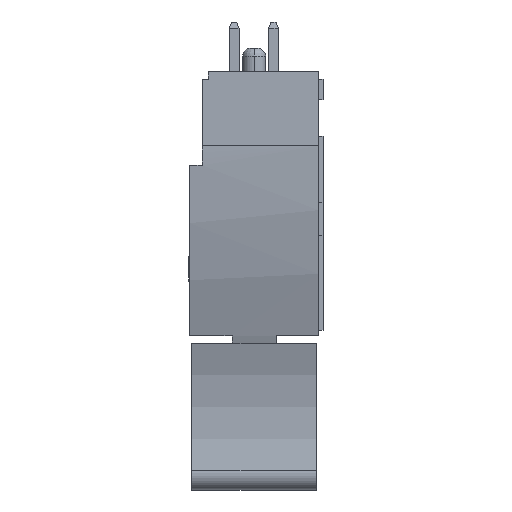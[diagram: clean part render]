
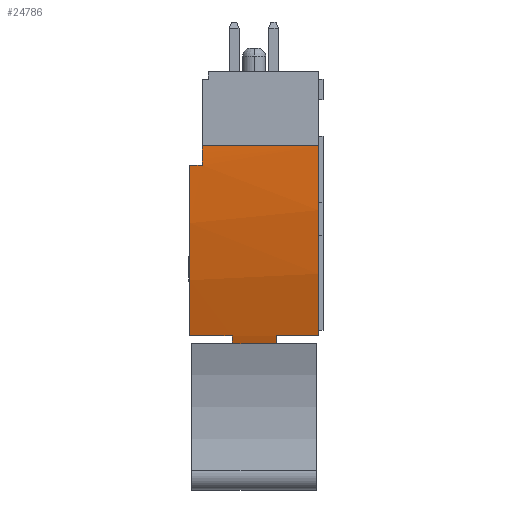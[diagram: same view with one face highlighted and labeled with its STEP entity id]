
A CAD part, left-side view. The second image highlights one B-rep face of the part: STEP entity #24786.
In plain terms, the highlighted cylindrical face has radius 36.6 mm (diameter 73.2 mm), a partial arc.
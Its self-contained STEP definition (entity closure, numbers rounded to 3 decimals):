
#16360=CARTESIAN_POINT('Vertex',(-24.032,2.73,9.95)) ;
#16363=CARTESIAN_POINT('Axis2P3D Location',(10.45,2.73,22.22)) ;
#16367=CARTESIAN_POINT('Vertex',(-23.85,2.73,9.45)) ;
#16394=CARTESIAN_POINT('Line Origine',(-23.85,1.43,9.45)) ;
#16398=CARTESIAN_POINT('Vertex',(-23.85,0.13,9.45)) ;
#16423=CARTESIAN_POINT('Axis2P3D Location',(10.45,0.13,22.22)) ;
#16427=CARTESIAN_POINT('Vertex',(-23.843,0.13,9.432)) ;
#16454=CARTESIAN_POINT('Line Origine',(-23.843,3.49,9.432)) ;
#16458=CARTESIAN_POINT('Vertex',(-23.843,8.17,9.432)) ;
#16485=CARTESIAN_POINT('Axis2P3D Location',(10.45,8.17,22.22)) ;
#16489=CARTESIAN_POINT('Vertex',(-23.85,8.17,9.45)) ;
#16518=CARTESIAN_POINT('Line Origine',(-23.85,6.87,9.45)) ;
#16522=CARTESIAN_POINT('Vertex',(-23.85,5.57,9.45)) ;
#16549=CARTESIAN_POINT('Axis2P3D Location',(10.45,5.57,22.22)) ;
#16553=CARTESIAN_POINT('Vertex',(-24.032,5.57,9.95)) ;
#16580=CARTESIAN_POINT('Line Origine',(-24.032,6.935,9.95)) ;
#16584=CARTESIAN_POINT('Vertex',(-24.032,8.3,9.95)) ;
#16640=CARTESIAN_POINT('Axis2P3D Location',(10.45,8.3,22.22)) ;
#16644=CARTESIAN_POINT('Vertex',(-26.128,8.3,20.95)) ;
#24372=CARTESIAN_POINT('Vertex',(-24.032,0.,9.95)) ;
#24375=CARTESIAN_POINT('Line Origine',(-24.032,1.365,9.95)) ;
#24739=CARTESIAN_POINT('Axis2P3D Location',(10.45,3.49,22.22)) ;
#24744=CARTESIAN_POINT('Axis2P3D Location',(10.45,7.5,22.22)) ;
#24748=CARTESIAN_POINT('Vertex',(-26.128,7.5,20.95)) ;
#24750=CARTESIAN_POINT('Vertex',(-26.15,7.5,22.22)) ;
#24753=CARTESIAN_POINT('Line Origine',(-26.128,3.49,20.95)) ;
#24758=CARTESIAN_POINT('Axis2P3D Location',(10.45,0.,22.22)) ;
#24762=CARTESIAN_POINT('Vertex',(-26.15,0.,22.22)) ;
#24765=CARTESIAN_POINT('Line Origine',(-26.15,3.49,22.22)) ;
#16364=DIRECTION('Axis2P3D Direction',(0.,-1.,0.)) ;
#16395=DIRECTION('Vector Direction',(0.,-1.,0.)) ;
#16424=DIRECTION('Axis2P3D Direction',(0.,-1.,0.)) ;
#16455=DIRECTION('Vector Direction',(0.,1.,0.)) ;
#16486=DIRECTION('Axis2P3D Direction',(0.,1.,0.)) ;
#16519=DIRECTION('Vector Direction',(0.,-1.,0.)) ;
#16550=DIRECTION('Axis2P3D Direction',(0.,1.,0.)) ;
#16581=DIRECTION('Vector Direction',(0.,-1.,0.)) ;
#16641=DIRECTION('Axis2P3D Direction',(0.,1.,0.)) ;
#24376=DIRECTION('Vector Direction',(0.,1.,0.)) ;
#24740=DIRECTION('Axis2P3D Direction',(0.,1.,0.)) ;
#24741=DIRECTION('Axis2P3D XDirection',(-0.937,0.,-0.349)) ;
#24745=DIRECTION('Axis2P3D Direction',(0.,1.,0.)) ;
#24754=DIRECTION('Vector Direction',(0.,1.,0.)) ;
#24759=DIRECTION('Axis2P3D Direction',(0.,1.,0.)) ;
#24766=DIRECTION('Vector Direction',(0.,1.,0.)) ;
#16365=AXIS2_PLACEMENT_3D('Circle Axis2P3D',#16363,#16364,$) ;
#16425=AXIS2_PLACEMENT_3D('Circle Axis2P3D',#16423,#16424,$) ;
#16487=AXIS2_PLACEMENT_3D('Circle Axis2P3D',#16485,#16486,$) ;
#16551=AXIS2_PLACEMENT_3D('Circle Axis2P3D',#16549,#16550,$) ;
#16642=AXIS2_PLACEMENT_3D('Circle Axis2P3D',#16640,#16641,$) ;
#24742=AXIS2_PLACEMENT_3D('Cylinder Axis2P3D',#24739,#24740,#24741) ;
#24746=AXIS2_PLACEMENT_3D('Circle Axis2P3D',#24744,#24745,$) ;
#24760=AXIS2_PLACEMENT_3D('Circle Axis2P3D',#24758,#24759,$) ;
#24771=ORIENTED_EDGE('',*,*,#24752,.F.) ;
#24772=ORIENTED_EDGE('',*,*,#24757,.F.) ;
#24773=ORIENTED_EDGE('',*,*,#16646,.T.) ;
#24774=ORIENTED_EDGE('',*,*,#16586,.T.) ;
#24775=ORIENTED_EDGE('',*,*,#16555,.F.) ;
#24776=ORIENTED_EDGE('',*,*,#16524,.F.) ;
#24777=ORIENTED_EDGE('',*,*,#16491,.F.) ;
#24778=ORIENTED_EDGE('',*,*,#16460,.T.) ;
#24779=ORIENTED_EDGE('',*,*,#16429,.F.) ;
#24780=ORIENTED_EDGE('',*,*,#16400,.F.) ;
#24781=ORIENTED_EDGE('',*,*,#16369,.F.) ;
#24782=ORIENTED_EDGE('',*,*,#24379,.F.) ;
#24783=ORIENTED_EDGE('',*,*,#24764,.F.) ;
#24784=ORIENTED_EDGE('',*,*,#24769,.F.) ;
#16396=VECTOR('Line Direction',#16395,1.) ;
#16456=VECTOR('Line Direction',#16455,1.) ;
#16520=VECTOR('Line Direction',#16519,1.) ;
#16582=VECTOR('Line Direction',#16581,1.) ;
#24377=VECTOR('Line Direction',#24376,1.) ;
#24755=VECTOR('Line Direction',#24754,1.) ;
#24767=VECTOR('Line Direction',#24766,1.) ;
#24786=ADVANCED_FACE('\X2\96F64EF651E04F554F53\X0\',(#24785),#24743,.T.) ;
#16366=CIRCLE('generated circle',#16365,36.6) ;
#16426=CIRCLE('generated circle',#16425,36.6) ;
#16488=CIRCLE('generated circle',#16487,36.6) ;
#16552=CIRCLE('generated circle',#16551,36.6) ;
#16643=CIRCLE('generated circle',#16642,36.6) ;
#24747=CIRCLE('generated circle',#24746,36.6) ;
#24761=CIRCLE('generated circle',#24760,36.6) ;
#24743=CYLINDRICAL_SURFACE('generated cylinder',#24742,36.6) ;
#16369=EDGE_CURVE('',#16361,#16368,#16366,.T.) ;
#16400=EDGE_CURVE('',#16368,#16399,#16397,.T.) ;
#16429=EDGE_CURVE('',#16399,#16428,#16426,.T.) ;
#16460=EDGE_CURVE('',#16459,#16428,#16457,.F.) ;
#16491=EDGE_CURVE('',#16459,#16490,#16488,.T.) ;
#16524=EDGE_CURVE('',#16490,#16523,#16521,.T.) ;
#16555=EDGE_CURVE('',#16523,#16554,#16552,.T.) ;
#16586=EDGE_CURVE('',#16585,#16554,#16583,.T.) ;
#16646=EDGE_CURVE('',#16645,#16585,#16643,.F.) ;
#24379=EDGE_CURVE('',#24373,#16361,#24378,.T.) ;
#24752=EDGE_CURVE('',#24749,#24751,#24747,.T.) ;
#24757=EDGE_CURVE('',#16645,#24749,#24756,.F.) ;
#24764=EDGE_CURVE('',#24763,#24373,#24761,.F.) ;
#24769=EDGE_CURVE('',#24751,#24763,#24768,.F.) ;
#24770=EDGE_LOOP('',(#24771,#24772,#24773,#24774,#24775,#24776,#24777,#24778,#24779,#24780,#24781,#24782,#24783,#24784)) ;
#24785=FACE_OUTER_BOUND('',#24770,.T.) ;
#16397=LINE('Line',#16394,#16396) ;
#16457=LINE('Line',#16454,#16456) ;
#16521=LINE('Line',#16518,#16520) ;
#16583=LINE('Line',#16580,#16582) ;
#24378=LINE('Line',#24375,#24377) ;
#24756=LINE('Line',#24753,#24755) ;
#24768=LINE('Line',#24765,#24767) ;
#16361=VERTEX_POINT('',#16360) ;
#16368=VERTEX_POINT('',#16367) ;
#16399=VERTEX_POINT('',#16398) ;
#16428=VERTEX_POINT('',#16427) ;
#16459=VERTEX_POINT('',#16458) ;
#16490=VERTEX_POINT('',#16489) ;
#16523=VERTEX_POINT('',#16522) ;
#16554=VERTEX_POINT('',#16553) ;
#16585=VERTEX_POINT('',#16584) ;
#16645=VERTEX_POINT('',#16644) ;
#24373=VERTEX_POINT('',#24372) ;
#24749=VERTEX_POINT('',#24748) ;
#24751=VERTEX_POINT('',#24750) ;
#24763=VERTEX_POINT('',#24762) ;
